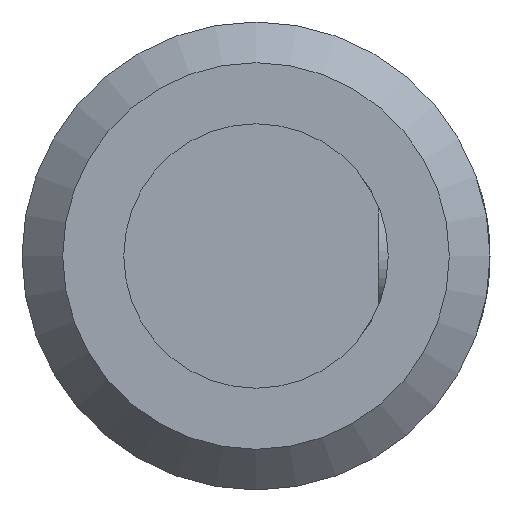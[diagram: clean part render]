
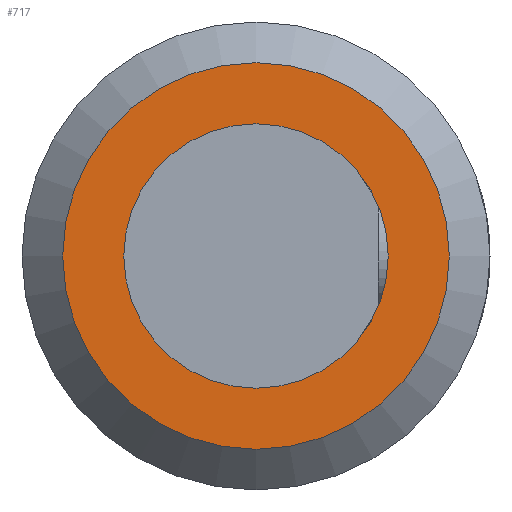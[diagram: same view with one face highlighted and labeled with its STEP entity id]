
A CAD part, left-side view. The second image highlights one B-rep face of the part: STEP entity #717.
In plain terms, the highlighted planar face has unit normal (-1, 0, 0).
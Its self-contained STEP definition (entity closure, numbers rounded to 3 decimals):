
#48=PLANE('',#808);
#65=FACE_BOUND('',#190,.T.);
#67=CIRCLE('',#779,13.);
#70=CIRCLE('',#782,13.);
#82=CIRCLE('',#807,19.);
#146=FACE_OUTER_BOUND('',#189,.T.);
#189=EDGE_LOOP('',(#612));
#190=EDGE_LOOP('',(#613,#614));
#328=VERTEX_POINT('',#1211);
#329=VERTEX_POINT('',#1212);
#370=VERTEX_POINT('',#2222);
#397=EDGE_CURVE('',#328,#329,#67,.T.);
#401=EDGE_CURVE('',#329,#328,#70,.T.);
#457=EDGE_CURVE('',#370,#370,#82,.T.);
#612=ORIENTED_EDGE('',*,*,#457,.F.);
#613=ORIENTED_EDGE('',*,*,#397,.F.);
#614=ORIENTED_EDGE('',*,*,#401,.F.);
#717=ADVANCED_FACE('',(#146,#65),#48,.T.);
#779=AXIS2_PLACEMENT_3D('',#1213,#847,#848);
#782=AXIS2_PLACEMENT_3D('',#1219,#854,#855);
#807=AXIS2_PLACEMENT_3D('',#2223,#924,#925);
#808=AXIS2_PLACEMENT_3D('',#2225,#927,#928);
#847=DIRECTION('center_axis',(-1.,0.,0.));
#848=DIRECTION('ref_axis',(0.,0.,1.));
#854=DIRECTION('center_axis',(-1.,0.,0.));
#855=DIRECTION('ref_axis',(0.,0.,1.));
#924=DIRECTION('center_axis',(1.,0.,0.));
#925=DIRECTION('ref_axis',(0.,0.,-1.));
#927=DIRECTION('center_axis',(-1.,0.,0.));
#928=DIRECTION('ref_axis',(0.,0.,1.));
#1211=CARTESIAN_POINT('',(0.,0.,13.));
#1212=CARTESIAN_POINT('',(0.,0.,-13.));
#1213=CARTESIAN_POINT('Origin',(0.,0.,0.));
#1219=CARTESIAN_POINT('Origin',(0.,0.,0.));
#2222=CARTESIAN_POINT('',(0.,0.,19.));
#2223=CARTESIAN_POINT('Origin',(0.,0.,0.));
#2225=CARTESIAN_POINT('Origin',(0.,0.,13.));
